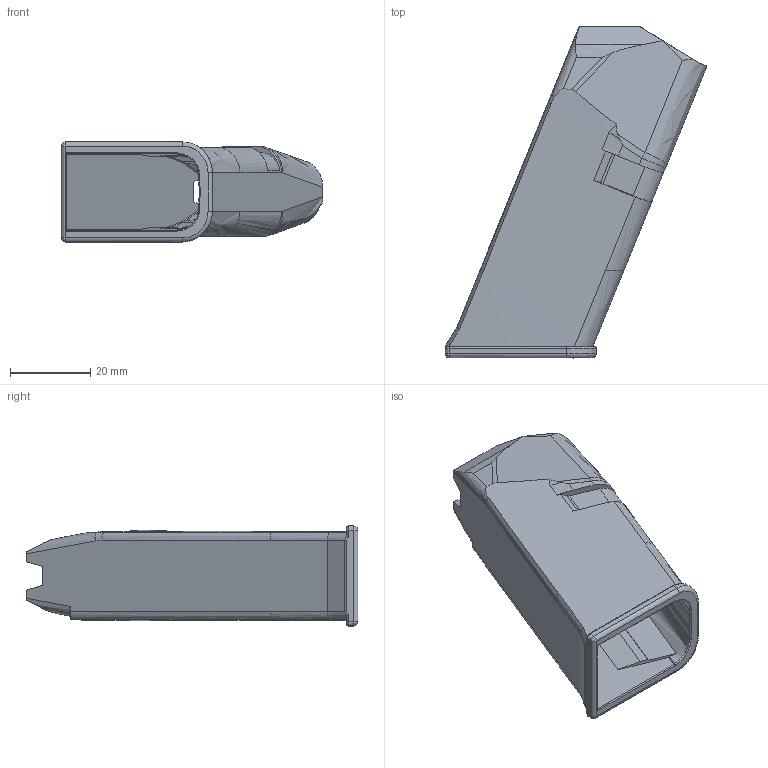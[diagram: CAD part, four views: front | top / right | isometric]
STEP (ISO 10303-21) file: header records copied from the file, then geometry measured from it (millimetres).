
FILE_DESCRIPTION(/* description */ (''),/* implementation_level */ '2;1');
FILE_NAME(/* name */ 'E:\MenMag v2.0\Menendez Magazine Pack v2.0\STEP\Mag Body - Mini Menendez (10 Round).stp',/* time_stamp */ '2021-03-23T13:07:03-05:00',/* author */ ('johne'),/* organization */ (''),/* preprocessor_version */ 'ST-DEVELOPER v18',/* originating_system */ 'Autodesk Inventor 2020',/* authorisation */ '');
FILE_SCHEMA (('AUTOMOTIVE_DESIGN { 1 0 10303 214 3 1 1 }'));
Length unit declared in the file: inch
Products named in the file (1): Mag Body - Mini Menendez (10 Round)
Bounding box: 65.03 x 82.49 x 24.87 mm (x, y, z)
Volume: 15430.7 mm3; surface area: 17244.8 mm2
Topology: 1 solids, 9 shells, 226 faces, 579 edges, 364 vertices
Faces by surface type: plane 96, bspline 78, cylinder 50, cone 2
Entity records: 9317 total; most frequent: CARTESIAN_POINT 4082, ORIENTED_EDGE 1146, DIRECTION 932, EDGE_CURVE 573, VERTEX_POINT 364, AXIS2_PLACEMENT_3D 318, LINE 296, VECTOR 296
